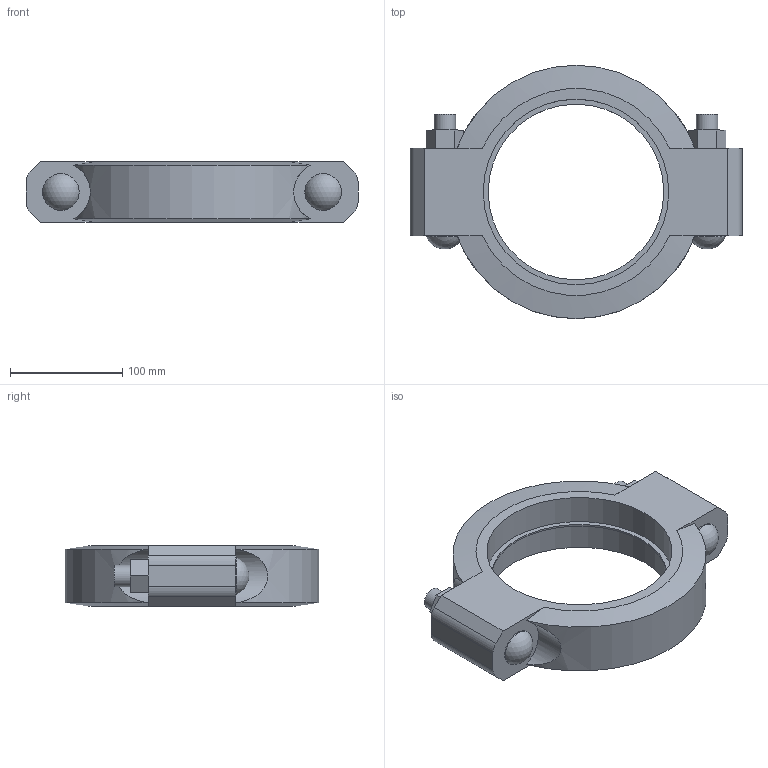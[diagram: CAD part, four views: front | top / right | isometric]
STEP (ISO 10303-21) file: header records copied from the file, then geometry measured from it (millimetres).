
FILE_DESCRIPTION(/* description */ ('Victaulic Standard Flexible Coupling Style 77','CAx-IF Rec.Pracs.---Representation and Presentation of Product Manufacturing Information (PMI)---4.0---2014-10-13'),/* implementation_level */ '2;1');
FILE_NAME(/* name */ 'C:\Users\Vjadhav\Desktop\CAD for Inventor\1\Coupling bolt thickness\77\Victaulic_IPS_Coupling Flexible_Style 77 (OGS)\Victaulic_IPS_Coupling Flexible_Style 77 (OGS)_06.0 (165.1) (150).stp',/* time_stamp */ '2022-03-24T18:20:30+06:00',/* author */ ('CONSTRUCTION PIPING SERVICES'),/* organization */ ('Victaulic'),/* preprocessor_version */ 'ST-DEVELOPER v17.2',/* originating_system */ 'Autodesk Inventor 2019',/* authorisation */ '');
FILE_SCHEMA (('AP242_MANAGED_MODEL_BASED_3D_ENGINEERING_MIM_LF { 1 0 10303 442 1 1 4 }'));
Length unit declared in the file: inch
Products named in the file (1): 077-06.0 (165.1)
Bounding box: 295.4 x 225.55 x 54.1 mm (x, y, z)
Volume: 1264859.3 mm3; surface area: 150247.9 mm2
Topology: 1 solids, 3 shells, 61 faces, 142 edges, 95 vertices
Faces by surface type: plane 34, cylinder 21, cone 4, sphere 2
Full cylindrical faces by diameter (mm): 19.05 x4, 21.209 x2, 32.537 x2, 156.21 x1, 165.1 x2
Entity records: 2075 total; most frequent: CARTESIAN_POINT 448, DIRECTION 323, ORIENTED_EDGE 284, EDGE_CURVE 142, AXIS2_PLACEMENT_3D 118, VERTEX_POINT 95, LINE 87, VECTOR 87
